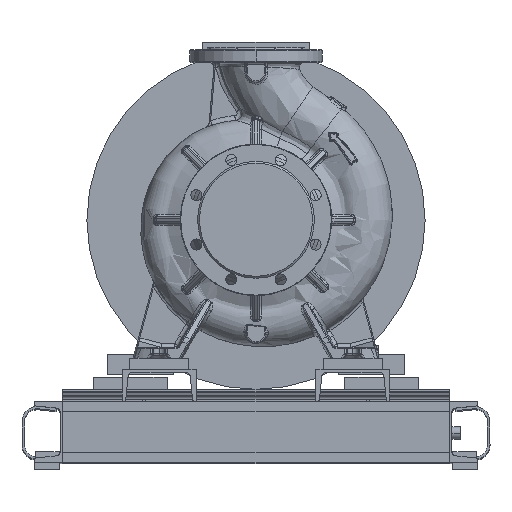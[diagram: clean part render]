
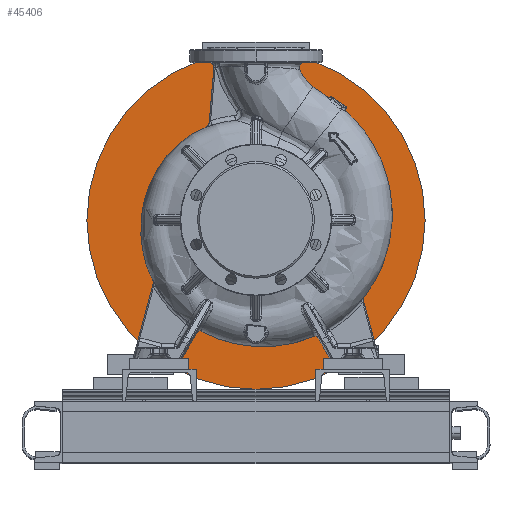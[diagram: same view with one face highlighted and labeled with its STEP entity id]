
A CAD part, top view. The second image highlights one B-rep face of the part: STEP entity #45406.
In plain terms, the highlighted planar face has unit normal (0, 0, 1).
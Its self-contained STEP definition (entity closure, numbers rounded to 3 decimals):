
#6669 = DIRECTION ( 'NONE',  ( 1., 0., 0. ) ) ;
#7746 = CARTESIAN_POINT ( 'NONE',  ( -125., 0., -274.8 ) ) ;
#10975 = DIRECTION ( 'NONE',  ( -1., 0., 0. ) ) ;
#12091 = CIRCLE ( 'NONE', #92048, 275. ) ;
#14221 = VERTEX_POINT ( 'NONE', #26093 ) ;
#15397 = ORIENTED_EDGE ( 'NONE', *, *, #91604, .F. ) ;
#15641 = AXIS2_PLACEMENT_3D ( 'NONE', #42285, #33738, #41655 ) ;
#16060 = ORIENTED_EDGE ( 'NONE', *, *, #61816, .F. ) ;
#16207 = CARTESIAN_POINT ( 'NONE',  ( 0., 125., -274.8 ) ) ;
#19956 = CIRCLE ( 'NONE', #51876, 125. ) ;
#26093 = CARTESIAN_POINT ( 'NONE',  ( 125., 0., -274.8 ) ) ;
#27970 = EDGE_LOOP ( 'NONE', ( #16060, #15397 ) ) ;
#28150 = CIRCLE ( 'NONE', #15641, 125. ) ;
#30071 = ORIENTED_EDGE ( 'NONE', *, *, #74166, .T. ) ;
#31616 = CARTESIAN_POINT ( 'NONE',  ( -275., 0., -274.8 ) ) ;
#33738 = DIRECTION ( 'NONE',  ( 0., 0., 1. ) ) ;
#35041 = DIRECTION ( 'NONE',  ( 0., 0., 1. ) ) ;
#36011 = DIRECTION ( 'NONE',  ( 1., 0., 0. ) ) ;
#36332 = DIRECTION ( 'NONE',  ( 0., 0., 1. ) ) ;
#40583 = FACE_BOUND ( 'NONE', #27970, .T. ) ;
#41273 = EDGE_CURVE ( 'NONE', #80545, #83206, #12091, .T. ) ;
#41655 = DIRECTION ( 'NONE',  ( 1., 0., 0. ) ) ;
#42285 = CARTESIAN_POINT ( 'NONE',  ( 0., 0., -274.8 ) ) ;
#45406 = ADVANCED_FACE ( 'NONE', ( #40583, #73553 ), #68336, .F. ) ;
#48869 = CARTESIAN_POINT ( 'NONE',  ( 0., 0., -274.8 ) ) ;
#49498 = DIRECTION ( 'NONE',  ( 1., 0., 0. ) ) ;
#51876 = AXIS2_PLACEMENT_3D ( 'NONE', #73598, #35041, #36011 ) ;
#53681 = AXIS2_PLACEMENT_3D ( 'NONE', #16207, #78217, #10975 ) ;
#61242 = ORIENTED_EDGE ( 'NONE', *, *, #41273, .T. ) ;
#61816 = EDGE_CURVE ( 'NONE', #14221, #96442, #28150, .T. ) ;
#64098 = CARTESIAN_POINT ( 'NONE',  ( 275., 0., -274.8 ) ) ;
#68336 = PLANE ( 'NONE',  #53681 ) ;
#71572 = DIRECTION ( 'NONE',  ( 0., 0., 1. ) ) ;
#72958 = CARTESIAN_POINT ( 'NONE',  ( 0., 0., -274.8 ) ) ;
#73553 = FACE_OUTER_BOUND ( 'NONE', #76118, .T. ) ;
#73598 = CARTESIAN_POINT ( 'NONE',  ( 0., 0., -274.8 ) ) ;
#74166 = EDGE_CURVE ( 'NONE', #83206, #80545, #75699, .T. ) ;
#75699 = CIRCLE ( 'NONE', #85831, 275. ) ;
#76118 = EDGE_LOOP ( 'NONE', ( #30071, #61242 ) ) ;
#78217 = DIRECTION ( 'NONE',  ( 0., 0., -1. ) ) ;
#80545 = VERTEX_POINT ( 'NONE', #31616 ) ;
#83206 = VERTEX_POINT ( 'NONE', #64098 ) ;
#85831 = AXIS2_PLACEMENT_3D ( 'NONE', #48869, #71572, #49498 ) ;
#91604 = EDGE_CURVE ( 'NONE', #96442, #14221, #19956, .T. ) ;
#92048 = AXIS2_PLACEMENT_3D ( 'NONE', #72958, #36332, #6669 ) ;
#96442 = VERTEX_POINT ( 'NONE', #7746 ) ;
